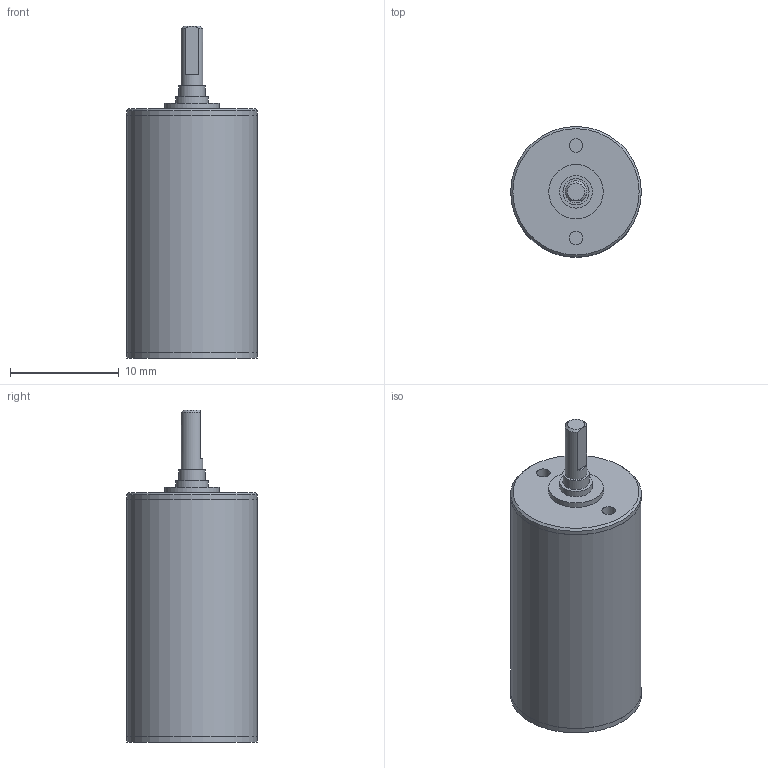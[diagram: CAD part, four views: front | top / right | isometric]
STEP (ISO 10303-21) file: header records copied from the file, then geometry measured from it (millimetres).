
FILE_DESCRIPTION(/* description */ (''),/* implementation_level */ '2;1');
FILE_NAME(/* name */ '12-5_7.stp',/* time_stamp */ '2016-08-24T11:35:05+02:00',/* author */ ('DR. FRITZ FAULHABER GmbH & Co. KG'),/* organization */ ('DR. FRITZ FAULHABER GmbH & Co. KG'),/* preprocessor_version */ 'ST-DEVELOPER v16',/* originating_system */ 'SIEMENS PLM Software NX 10.0',/* authorisation */ '');
FILE_SCHEMA (('AUTOMOTIVE_DESIGN { 1 0 10303 214 3 1 1 1 }'));
Length unit declared in the file: millimetre
Products named in the file (1): H00000606_A
Bounding box: 12 x 12 x 30.5 mm (x, y, z)
Volume: 2546.3 mm3; surface area: 1227.5 mm2
Topology: 1 solids, 1 shells, 35 faces, 58 edges, 38 vertices
Faces by surface type: plane 17, cylinder 15, cone 3
Full cylindrical faces by diameter (mm): 1.25 x2, 2 x1, 2.4 x1, 2.48 x1, 2.6 x1, 3 x1, 5 x2, 6 x1, 11.99 x2, 12 x3
Entity records: 749 total; most frequent: DIRECTION 141, CARTESIAN_POINT 121, ORIENTED_EDGE 76, AXIS2_PLACEMENT_3D 69, EDGE_LOOP 65, FACE_BOUND 58, EDGE_CURVE 38, ADVANCED_FACE 35
